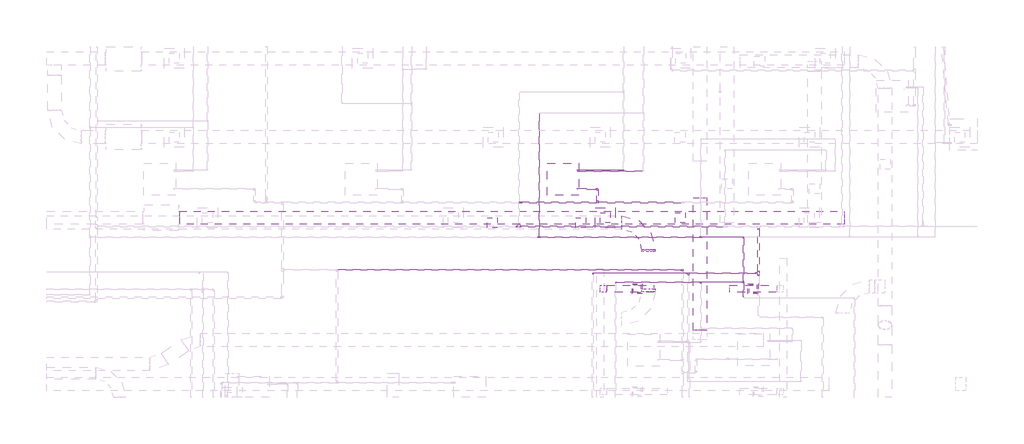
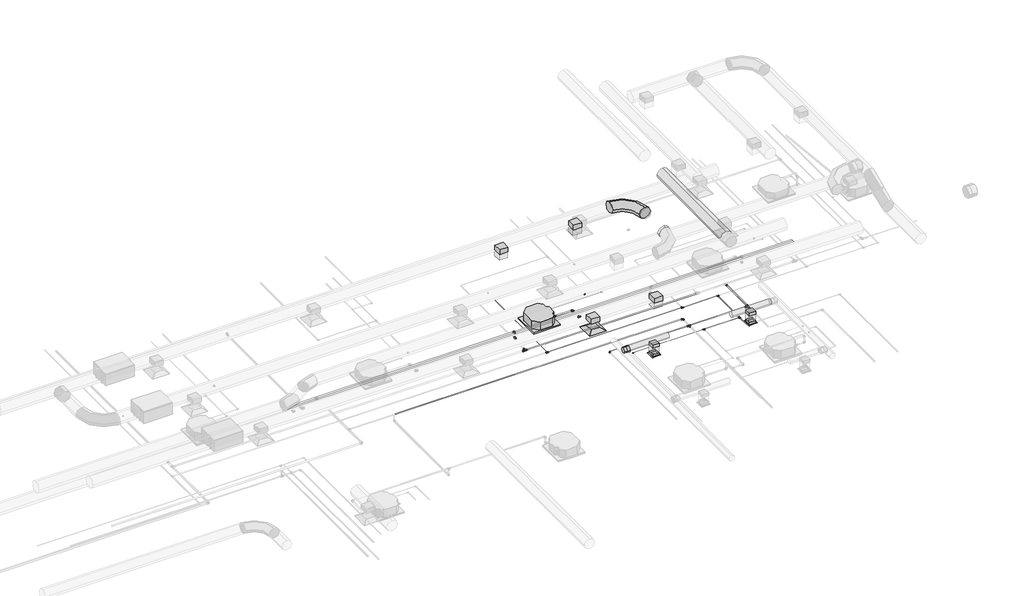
# One storey, part 18 of 21: 32 pipe fittings, 20 pipe segments, 12 duct segments, 8 duct fittings, 3 air terminals, 1 proxy.
"""IFC4 building model written with IfcOpenShell, lengths in millimetres."""

from ifc_helpers import new_model, si_unit, point, frame, frame_2d, origin, place, context, project, spatial, polyline, circle_curve, trimmed, segment, composite_curve, outline, extrude, transform, mapped, element, save
from components import air_terminal_ff221211, sdq3535_a75e83f7, mechanical_equipment_53173f38, duct_fitting_1aed30ea, duct_fitting_95c1ddea, duct_fitting_4c01d837, duct_fitting_2_d_33ab650d, pipe_fitting_535881cf, pipe_fitting_144f4440, pipe_fitting_a74a8f85, pipe_fitting_660e7500, pipe_fitting_39558790, pipe_fitting_5aefb692, pipe_fitting_7275ed05, pipe_fitting_bec7a568, pipe_fitting_8959f397, pipe_fitting_b289f7a4, pipe_fitting_d513b082, pipe_fitting_ee637023, pipe_fitting_3bcfee68, pipe_fitting_81a84823, pipe_fitting_4dadca9a, pipe_fitting_c427e41c, pipe_fitting_c5895cb6, pipe_fitting_c900cfc2, pipe_fitting_16c020f5, pipe_fitting_b10472de, pipe_fitting_afe73776, pipe_fitting_09966660, pipe_fitting_59d1f3e3, pipe_fitting_648138cd, pipe_fitting_cbda5a7c

model = new_model("IFC4")

# Units and contexts
model_context = context("Model", 3, world=origin())
ifc_project = project(units=[si_unit("LENGTHUNIT", "METRE", prefix="MILLI")], contexts=[model_context])

# Site, building, storey
site = spatial("IfcSite", under=ifc_project)
building = spatial("IfcBuilding", under=site)
storey = spatial("IfcBuildingStorey", under=building, Name="Nível 1", Elevation=0.0)

# Air terminals
placement = place(None, origin())
air_terminal_shape = air_terminal_ff221211(model_context)
element("IfcAirTerminal", 1, ObjectType="M_Difusor de retorno : 600 x 600 Face 300 x 300 Conexão", at=placement, inside=storey, context=model_context, shape_type="MappedRepresentation", body=[
    mapped(air_terminal_shape, transform((19391.8789049, 2283.4261027, 3000.0), x_axis=(0.0, -1.0, 0.0), y_axis=(1.0, 0.0, 0.0), z_axis=(0.0, 0.0, 1.0))),
])
sdq3535_shape = sdq3535_a75e83f7(model_context)
element("IfcAirTerminal", 2, ObjectType="11 - Difusor Quadrado : SDQ3535", at=placement, inside=storey, context=model_context, shape_type="MappedRepresentation", body=[
    mapped(sdq3535_shape, transform((23788.0534633, 172.1125512, 3000.0), x_axis=(0.0, 1.0, 0.0), y_axis=(-1.0, 0.0, 0.0), z_axis=(0.0, 0.0, 1.0))),
])
element("IfcAirTerminal", 3, ObjectType="11 - Difusor Quadrado : SDQ3535", at=placement, inside=storey, context=model_context, shape_type="MappedRepresentation", body=[
    mapped(sdq3535_shape, transform((20342.4289049, 172.1125512, 3000.0), x_axis=(0.0, -1.0, 0.0), y_axis=(1.0, 0.0, 0.0), z_axis=(0.0, 0.0, 1.0))),
])

# Proxy
mechanical_equipment_shape = mechanical_equipment_53173f38(model_context)
element("IfcBuildingElementProxy", 4, Name="Midea_VRF_Indoor_4-way Cassette_MI-90(100,112,140)Q4_DHN1-D (2nd DC) : MI2-112Q4DHN1", ObjectType="Midea_VRF_Indoor_4-way Cassette_MI-90(100,112,140)Q4_DHN1-D (2nd DC) : MI2-112Q4DHN1", at=placement, inside=storey, context=model_context, shape_type="MappedRepresentation", body=[
    mapped(mechanical_equipment_shape, transform((18136.4781645, 3426.4200133, 2999.9565561), x_axis=(1.0, 0.0, 0.0), y_axis=(0.0, 1.0, 0.0), z_axis=(0.0, 0.0, 1.0))),
])

# Duct fittings
duct_fitting_shape = duct_fitting_1aed30ea(model_context)
element("IfcDuctFitting", 5, ObjectType="M_Encaixe de duto redondo : Padrão", at=placement, inside=storey, context=model_context, shape_type="MappedRepresentation", body=[
    mapped(duct_fitting_shape, transform((19341.3789049, 172.1125512, 3521.0), x_axis=(1.0, 0.0, 0.0), y_axis=(0.0, -1.0, 0.0), z_axis=(0.0, 0.0, -1.0))),
])
duct_fitting_2_shape = duct_fitting_95c1ddea(model_context)
element("IfcDuctFitting", 6, ObjectType="M_Encaixe de duto retangular : Padrão", at=placement, inside=storey, context=model_context, shape_type="MappedRepresentation", body=[
    mapped(duct_fitting_2_shape, transform((19391.8789049, 2283.4261027, 3421.0), x_axis=(0.0, 0.0, -1.0), y_axis=(-1.0, 0.0, 0.0), z_axis=(0.0, 1.0, 0.0))),
])
element("IfcDuctFitting", 7, ObjectType="M_Encaixe de duto retangular : Padrão", at=placement, inside=storey, context=model_context, shape_type="MappedRepresentation", body=[
    mapped(duct_fitting_2_shape, transform((21627.3559712, 2283.4261027, 3421.0), x_axis=(0.0, 0.0, -1.0), y_axis=(-1.0, 0.0, 0.0), z_axis=(0.0, 1.0, 0.0))),
])
element("IfcDuctFitting", 8, ObjectType="M_Encaixe de duto retangular : Padrão", at=placement, inside=storey, context=model_context, shape_type="MappedRepresentation", body=[
    mapped(duct_fitting_2_shape, transform((16036.8087604, 2137.3539749, 7301.0), x_axis=(0.0, 0.0, -1.0), y_axis=(1.0, 0.0, 0.0), z_axis=(0.0, -1.0, 0.0))),
])
element("IfcDuctFitting", 9, ObjectType="M_Encaixe de duto retangular : Padrão", at=placement, inside=storey, context=model_context, shape_type="MappedRepresentation", body=[
    mapped(duct_fitting_2_shape, transform((18669.5136677, 2137.3539749, 7301.0), x_axis=(0.0, 0.0, -1.0), y_axis=(1.0, 0.0, 0.0), z_axis=(0.0, -1.0, 0.0))),
])
duct_fitting_3_shape = duct_fitting_4c01d837(model_context)
element("IfcDuctFitting", 10, ObjectType="M_Encaixe de duto retangular : Padrão", at=placement, inside=storey, context=model_context, shape_type="MappedRepresentation", body=[
    mapped(duct_fitting_3_shape, transform((23788.0534633, 172.1125512, 3421.5), x_axis=(0.0, 0.0, -1.0), y_axis=(1.0, 0.0, 0.0), z_axis=(0.0, -1.0, 0.0))),
])
element("IfcDuctFitting", 11, ObjectType="M_Encaixe de duto retangular : Padrão", at=placement, inside=storey, context=model_context, shape_type="MappedRepresentation", body=[
    mapped(duct_fitting_3_shape, transform((20342.4289049, 172.1125512, 3421.5), x_axis=(0.0, 0.0, -1.0), y_axis=(-1.0, 0.0, 0.0), z_axis=(0.0, 1.0, 0.0))),
])
duct_fitting_2_d_shape = duct_fitting_2_d_33ab650d(model_context)
element("IfcDuctFitting", 12, ObjectType="M_Cotovelo redondo : 2 D", at=placement, inside=storey, context=model_context, shape_type="MappedRepresentation", body=[
    mapped(duct_fitting_2_d_shape, transform((20682.6496305, 2137.3539749, 7501.0), x_axis=(0.0, 1.0, 0.0), y_axis=(-1.0, 0.0, 0.0), z_axis=(0.0, 0.0, 1.0))),
])

# Duct segments
element("IfcDuctSegment", 13, ObjectType="Torneiras / Raio curto", at=placement, inside=storey, context=model_context, shape_type="SweptSolid", body=[
    extrude(outline(composite_curve([segment(trimmed(circle_curve(frame_2d((2283.4261027, 3621.0)), 200.0), [point((2083.4261027, 3621.0))], [point((2283.4261027, 3821.0))], False, "CARTESIAN"), True, "CONTINUOUS"), segment(trimmed(circle_curve(frame_2d((2283.4261027, 3621.0)), 200.0), [point((2283.4261027, 3821.0))], [point((2483.4261027, 3621.0))], False, "CARTESIAN"), True, "CONTINUOUS"), segment(trimmed(circle_curve(frame_2d((2283.4261027, 3621.0)), 200.0), [point((2483.4261027, 3621.0))], [point((2283.4261027, 3421.0))], False, "CARTESIAN"), True, "CONTINUOUS"), segment(trimmed(circle_curve(frame_2d((2283.4261027, 3621.0)), 200.0), [point((2283.4261027, 3421.0))], [point((2083.4261027, 3621.0))], False, "CARTESIAN"), True, "CONTINUOUS")], self_intersect=False)), frame((6730.0801877, 0.0, 0.0), z_axis=(1.0, 0.0, 0.0), x_axis=(0.0, 1.0, 0.0)), (0.0, 0.0, 1.0), 19777.3097368),
])
element("IfcDuctSegment", 14, ObjectType="Raios cotovelos / torneiras", at=placement, inside=storey, context=model_context, shape_type="SweptSolid", body=[
    extrude(outline(polyline([(19541.8789049, 2133.4261027), (19241.8789049, 2133.4261027), (19241.8789049, 2433.4261027), (19541.8789049, 2433.4261027), (19541.8789049, 2133.4261027)])), frame((0.0, 0.0, 3101.6), z_axis=(0.0, 0.0, 1.0), x_axis=(1.0, 0.0, 0.0)), (0.0, 0.0, 1.0), 217.8),
])
element("IfcDuctSegment", 15, ObjectType="Raios cotovelos / torneiras", at=placement, inside=storey, context=model_context, shape_type="SweptSolid", body=[
    extrude(outline(polyline([(21777.3559712, 2133.4261027), (21477.3559712, 2133.4261027), (21477.3559712, 2433.4261027), (21777.3559712, 2433.4261027), (21777.3559712, 2133.4261027)])), frame((0.0, 0.0, 3101.6), z_axis=(0.0, 0.0, 1.0), x_axis=(1.0, 0.0, 0.0)), (0.0, 0.0, 1.0), 217.8),
])
element("IfcDuctSegment", 16, ObjectType="Torneiras / Raio curto", at=placement, inside=storey, context=model_context, shape_type="SweptSolid", body=[
    extrude(outline(composite_curve([segment(trimmed(circle_curve(frame_2d((172.1125512, 3521.0)), 99.5), [point((72.6125512, 3521.0))], [point((172.1125512, 3620.5))], False, "CARTESIAN"), True, "CONTINUOUS"), segment(trimmed(circle_curve(frame_2d((172.1125512, 3521.0)), 99.5), [point((172.1125512, 3620.5))], [point((271.6125512, 3521.0))], False, "CARTESIAN"), True, "CONTINUOUS"), segment(trimmed(circle_curve(frame_2d((172.1125512, 3521.0)), 99.5), [point((271.6125512, 3521.0))], [point((172.1125512, 3421.5))], False, "CARTESIAN"), True, "CONTINUOUS"), segment(trimmed(circle_curve(frame_2d((172.1125512, 3521.0)), 99.5), [point((172.1125512, 3421.5))], [point((72.6125512, 3521.0))], False, "CARTESIAN"), True, "CONTINUOUS")], self_intersect=False)), frame((19442.9789049, 0.0, 0.0), z_axis=(1.0, 0.0, 0.0), x_axis=(0.0, 1.0, 0.0)), (0.0, 0.0, 1.0), 1398.4),
])
element("IfcDuctSegment", 17, ObjectType="Torneiras / Raio curto", at=placement, inside=storey, context=model_context, shape_type="SweptSolid", body=[
    extrude(outline(composite_curve([segment(trimmed(circle_curve(frame_2d((172.1125512, 3521.0)), 99.5), [point((271.6125512, 3521.0))], [point((172.1125512, 3421.5))], False, "CARTESIAN"), True, "CONTINUOUS"), segment(trimmed(circle_curve(frame_2d((172.1125512, 3521.0)), 99.5), [point((172.1125512, 3421.5))], [point((72.6125512, 3521.0))], False, "CARTESIAN"), True, "CONTINUOUS"), segment(trimmed(circle_curve(frame_2d((172.1125512, 3521.0)), 99.5), [point((72.6125512, 3521.0))], [point((172.1125512, 3620.5))], False, "CARTESIAN"), True, "CONTINUOUS"), segment(trimmed(circle_curve(frame_2d((172.1125512, 3521.0)), 99.5), [point((172.1125512, 3620.5))], [point((271.6125512, 3521.0))], False, "CARTESIAN"), True, "CONTINUOUS")], self_intersect=False)), frame((23088.6034633, 0.0, 0.0), z_axis=(1.0, 0.0, 0.0), x_axis=(0.0, 1.0, 0.0)), (0.0, 0.0, 1.0), 1398.9),
])
element("IfcDuctSegment", 18, ObjectType="Raios cotovelos / torneiras", at=placement, inside=storey, context=model_context, shape_type="SweptSolid", body=[
    extrude(outline(polyline([(23675.5534633, 284.6125512), (23900.5534633, 284.6125512), (23900.5534633, 59.6125512), (23675.5534633, 59.6125512), (23675.5534633, 284.6125512)])), frame((0.0, 0.0, 3005.0), z_axis=(0.0, 0.0, 1.0), x_axis=(1.0, 0.0, 0.0)), (0.0, 0.0, 1.0), 314.9),
])
element("IfcDuctSegment", 19, ObjectType="Raios cotovelos / torneiras", at=placement, inside=storey, context=model_context, shape_type="SweptSolid", body=[
    extrude(outline(polyline([(20454.9289049, 59.6125512), (20229.9289049, 59.6125512), (20229.9289049, 284.6125512), (20454.9289049, 284.6125512), (20454.9289049, 59.6125512)])), frame((0.0, 0.0, 3005.0), z_axis=(0.0, 0.0, 1.0), x_axis=(1.0, 0.0, 0.0)), (0.0, 0.0, 1.0), 314.9),
])
element("IfcDuctSegment", 20, ObjectType="Torneiras / Raio curto", at=placement, inside=storey, context=model_context, shape_type="SweptSolid", body=[
    extrude(outline(composite_curve([segment(trimmed(circle_curve(frame_2d((7501.0, 22212.1483041)), 200.0), [point((7501.0, 22012.1483041))], [point((7301.0, 22212.1483041))], False, "CARTESIAN"), True, "CONTINUOUS"), segment(trimmed(circle_curve(frame_2d((7501.0, 22212.1483041)), 200.0), [point((7301.0, 22212.1483041))], [point((7501.0, 22412.1483041))], False, "CARTESIAN"), True, "CONTINUOUS"), segment(trimmed(circle_curve(frame_2d((7501.0, 22212.1483041)), 200.0), [point((7501.0, 22412.1483041))], [point((7701.0, 22212.1483041))], False, "CARTESIAN"), True, "CONTINUOUS"), segment(trimmed(circle_curve(frame_2d((7501.0, 22212.1483041)), 200.0), [point((7701.0, 22212.1483041))], [point((7501.0, 22012.1483041))], False, "CARTESIAN"), True, "CONTINUOUS")], self_intersect=False)), frame((0.0, -1057.7889752, 0.0), z_axis=(0.0, 1.0, 0.0), x_axis=(0.0, 0.0, 1.0)), (0.0, 0.0, 1.0), 3933.62584),
])
element("IfcDuctSegment", 21, ObjectType="Torneiras / Raio curto", at=placement, inside=storey, context=model_context, shape_type="SweptSolid", body=[
    extrude(outline(composite_curve([segment(trimmed(circle_curve(frame_2d((7501.0, 20682.6496305)), 200.0), [point((7501.0, 20482.6496305))], [point((7301.0, 20682.6496305))], False, "CARTESIAN"), True, "CONTINUOUS"), segment(trimmed(circle_curve(frame_2d((7501.0, 20682.6496305)), 200.0), [point((7301.0, 20682.6496305))], [point((7501.0, 20882.6496305))], False, "CARTESIAN"), True, "CONTINUOUS"), segment(trimmed(circle_curve(frame_2d((7501.0, 20682.6496305)), 200.0), [point((7501.0, 20882.6496305))], [point((7701.0, 20682.6496305))], False, "CARTESIAN"), True, "CONTINUOUS"), segment(trimmed(circle_curve(frame_2d((7501.0, 20682.6496305)), 200.0), [point((7701.0, 20682.6496305))], [point((7501.0, 20482.6496305))], False, "CARTESIAN"), True, "CONTINUOUS")], self_intersect=False)), frame((0.0, 75.8368648, 0.0), z_axis=(0.0, 1.0, 0.0), x_axis=(0.0, 0.0, 1.0)), (0.0, 0.0, 1.0), 100.0),
])
element("IfcDuctSegment", 22, ObjectType="Torneiras / Raio curto", at=placement, inside=storey, context=model_context, shape_type="SweptSolid", body=[
    extrude(outline(composite_curve([segment(trimmed(circle_curve(frame_2d((7501.0, 20682.6496305)), 200.0), [point((7501.0, 20882.6496305))], [point((7701.0, 20682.6496305))], False, "CARTESIAN"), True, "CONTINUOUS"), segment(trimmed(circle_curve(frame_2d((7501.0, 20682.6496305)), 200.0), [point((7701.0, 20682.6496305))], [point((7501.0, 20482.6496305))], False, "CARTESIAN"), True, "CONTINUOUS"), segment(trimmed(circle_curve(frame_2d((7501.0, 20682.6496305)), 200.0), [point((7501.0, 20482.6496305))], [point((7301.0, 20682.6496305))], False, "CARTESIAN"), True, "CONTINUOUS"), segment(trimmed(circle_curve(frame_2d((7501.0, 20682.6496305)), 200.0), [point((7301.0, 20682.6496305))], [point((7501.0, 20882.6496305))], False, "CARTESIAN"), True, "CONTINUOUS")], self_intersect=False)), frame((0.0, 1269.8368648, 0.0), z_axis=(0.0, 1.0, 0.0), x_axis=(0.0, 0.0, 1.0)), (0.0, 0.0, 1.0), 67.5171101),
])
element("IfcDuctSegment", 23, ObjectType="Raios cotovelos / torneiras", at=placement, inside=storey, context=model_context, shape_type="SweptSolid", body=[
    extrude(outline(polyline([(16186.8087604, 1987.3539749), (15886.8087604, 1987.3539749), (15886.8087604, 2287.3539749), (16186.8087604, 2287.3539749), (16186.8087604, 1987.3539749)])), frame((0.0, 0.0, 6981.6), z_axis=(0.0, 0.0, 1.0), x_axis=(1.0, 0.0, 0.0)), (0.0, 0.0, 1.0), 217.8),
])
element("IfcDuctSegment", 24, ObjectType="Raios cotovelos / torneiras", at=placement, inside=storey, context=model_context, shape_type="SweptSolid", body=[
    extrude(outline(polyline([(18819.5136677, 1987.3539749), (18519.5136677, 1987.3539749), (18519.5136677, 2287.3539749), (18819.5136677, 2287.3539749), (18819.5136677, 1987.3539749)])), frame((0.0, 0.0, 6981.6), z_axis=(0.0, 0.0, 1.0), x_axis=(1.0, 0.0, 0.0)), (0.0, 0.0, 1.0), 217.8),
])

# Pipe fittings
pipe_fitting_shape = pipe_fitting_535881cf(model_context)
element("IfcPipeFitting", 25, ObjectType="Cotovelo - Soldado - CU : Padrão", at=placement, inside=storey, context=model_context, shape_type="MappedRepresentation", body=[
    mapped(pipe_fitting_shape, transform((21695.3015024, 732.1759778, 3500.0), x_axis=(0.0, 1.0, 0.0), y_axis=(-1.0, 0.0, 0.0), z_axis=(0.0, 0.0, 1.0))),
])
pipe_fitting_2_shape = pipe_fitting_144f4440(model_context)
element("IfcPipeFitting", 26, ObjectType="Cotovelo - PVC - CW : Padrão", at=placement, inside=storey, context=model_context, shape_type="MappedRepresentation", body=[
    mapped(pipe_fitting_2_shape, transform((19161.4781635, 3141.4200133, 3252.3), x_axis=(0.0, 1.0, 0.0), y_axis=(-0.999999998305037, 0.0, -5.822306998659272e-05), z_axis=(-5.822306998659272e-05, 0.0, 0.999999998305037))),
])
element("IfcPipeFitting", 27, ObjectType="Cotovelo - PVC - CW : Padrão", at=placement, inside=storey, context=model_context, shape_type="MappedRepresentation", body=[
    mapped(pipe_fitting_2_shape, transform((16862.4745645, 2741.4325471, 3252.3), x_axis=(-0.9999999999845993, 5.54991084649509e-06, 0.0), y_axis=(0.0, 0.0, 1.0000000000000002), z_axis=(5.54991084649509e-06, 0.9999999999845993, 0.0))),
])
element("IfcPipeFitting", 28, ObjectType="Cotovelo - PVC - CW : Padrão", at=placement, inside=storey, context=model_context, shape_type="MappedRepresentation", body=[
    mapped(pipe_fitting_2_shape, transform((16862.4745645, 2741.4325471, 3500.0), x_axis=(0.0, 0.0, 1.0), y_axis=(-1.0, 0.0, 0.0), z_axis=(0.0, -1.0, 0.0))),
])
pipe_fitting_3_shape = pipe_fitting_a74a8f85(model_context)
element("IfcPipeFitting", 29, ObjectType="Tê - Soldado - CU : Padrão", at=placement, inside=storey, context=model_context, shape_type="MappedRepresentation", body=[
    mapped(pipe_fitting_3_shape, transform((19161.4781635, 2741.4200133, 3252.3), x_axis=(-1.0, 0.0, 0.0), y_axis=(0.0, -1.0, 0.0), z_axis=(0.0, 0.0, 1.0))),
])
pipe_fitting_4_shape = pipe_fitting_660e7500(model_context)
element("IfcPipeFitting", 30, ObjectType="Tê - Soldado - CU : Padrão", at=placement, inside=storey, context=model_context, shape_type="MappedRepresentation", body=[
    mapped(pipe_fitting_4_shape, transform((17431.2298012, 1706.2287572, 3146.8), x_axis=(-1.0, 0.0, 0.0), y_axis=(0.0, -1.0, 0.0), z_axis=(0.0, 0.0, 1.0))),
])
element("IfcPipeFitting", 31, ObjectType="Tê - Soldado - CU : Padrão", at=placement, inside=storey, context=model_context, shape_type="MappedRepresentation", body=[
    mapped(pipe_fitting_4_shape, transform((22231.1525645, 1706.2287572, 3146.8), x_axis=(-1.0, 0.0, 0.0), y_axis=(0.0, -1.0, 0.0), z_axis=(0.0, 0.0, 1.0))),
])
pipe_fitting_5_shape = pipe_fitting_39558790(model_context)
element("IfcPipeFitting", 32, ObjectType="Bucha de redução reta - Soldada - CU : Padrão", at=placement, inside=storey, context=model_context, shape_type="MappedRepresentation", body=[
    mapped(pipe_fitting_5_shape, transform((21857.3516384, 582.0186107, 3249.6974708), x_axis=(0.0, -0.9999964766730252, -0.002654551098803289), y_axis=(0.9999954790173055, 7.98218922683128e-06, -0.0030069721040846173), z_axis=(0.0030069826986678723, -0.002654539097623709, 0.9999919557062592))),
])
element("IfcPipeFitting", 33, ObjectType="Bucha de redução reta - Soldada - CU : Padrão", at=placement, inside=storey, context=model_context, shape_type="MappedRepresentation", body=[
    mapped(pipe_fitting_5_shape, transform((21817.7318175, 636.3684192, 3249.9608827), x_axis=(-0.9999954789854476, 0.0, 0.0030069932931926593), y_axis=(-7.982181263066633e-06, -0.9999964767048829, -0.0026545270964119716), z_axis=(0.0030069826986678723, -0.002654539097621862, 0.9999919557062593))),
])
pipe_fitting_6_shape = pipe_fitting_5aefb692(model_context)
element("IfcPipeFitting", 34, ObjectType="Cotovelo - Soldado - CU : Padrão", at=placement, inside=storey, context=model_context, shape_type="MappedRepresentation", body=[
    mapped(pipe_fitting_6_shape, transform((19017.7444764, 636.3684192, 3258.3804639), x_axis=(-0.9999954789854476, 0.0, 0.0030069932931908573), y_axis=(0.0, -1.0, 0.0), z_axis=(0.0030069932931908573, 0.0, 0.9999954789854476))),
])
pipe_fitting_7_shape = pipe_fitting_7275ed05(model_context)
element("IfcPipeFitting", 35, ObjectType="Bucha de redução reta - Soldada - CU : Padrão", at=placement, inside=storey, context=model_context, shape_type="MappedRepresentation", body=[
    mapped(pipe_fitting_7_shape, transform((16824.5645645, 2107.4386241, 3244.7889768), x_axis=(0.0, 0.9999977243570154, 0.0021333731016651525), y_axis=(-0.9999998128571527, -1.3051739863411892e-06, 0.000611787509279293), z_axis=(0.0006117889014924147, -0.0021333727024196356, 0.9999975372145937))),
])
pipe_fitting_8_shape = pipe_fitting_bec7a568(model_context)
element("IfcPipeFitting", 36, ObjectType="Tê - Soldado - CU : Padrão", at=placement, inside=storey, context=model_context, shape_type="MappedRepresentation", body=[
    mapped(pipe_fitting_8_shape, transform((16824.5645645, 2025.308811, 3244.6137629), x_axis=(-0.9999998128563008, 0.0, 0.0006117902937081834), y_axis=(-1.3051767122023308e-06, -0.9999977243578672, -0.002133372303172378), z_axis=(0.0006117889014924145, -0.0021333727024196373, 0.9999975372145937))),
])
pipe_fitting_9_shape = pipe_fitting_8959f397(model_context)
element("IfcPipeFitting", 37, ObjectType="Bucha de redução reta - Soldada - CU : Padrão", at=placement, inside=storey, context=model_context, shape_type="MappedRepresentation", body=[
    mapped(pipe_fitting_9_shape, transform((17431.2298012, 1738.9569572, 3146.8), x_axis=(0.0, 1.0, 0.0), y_axis=(-1.0, 0.0, 0.0), z_axis=(0.0, 0.0, 1.0))),
])
element("IfcPipeFitting", 38, ObjectType="Bucha de redução reta - Soldada - CU : Padrão", at=placement, inside=storey, context=model_context, shape_type="MappedRepresentation", body=[
    mapped(pipe_fitting_9_shape, transform((22231.1525645, 1738.9569572, 3146.8), x_axis=(0.0, 1.0, 0.0), y_axis=(-1.0, 0.0, 0.0), z_axis=(0.0, 0.0, 1.0))),
])
pipe_fitting_10_shape = pipe_fitting_b289f7a4(model_context)
element("IfcPipeFitting", 39, ObjectType="Bucha de redução reta - Soldada - CU : Padrão", at=placement, inside=storey, context=model_context, shape_type="MappedRepresentation", body=[
    mapped(pipe_fitting_10_shape, transform((22263.8996645, 1706.2287572, 3146.8), x_axis=(1.0, 0.0, 0.0), y_axis=(0.0, 1.0, 0.0), z_axis=(0.0, 0.0, 1.0))),
])
pipe_fitting_11_shape = pipe_fitting_d513b082(model_context)
element("IfcPipeFitting", 40, ObjectType="Bucha de redução reta - Soldada - CU : Padrão", at=placement, inside=storey, context=model_context, shape_type="MappedRepresentation", body=[
    mapped(pipe_fitting_11_shape, transform((23956.1500382, 1972.308811, 3240.2507273), x_axis=(0.0, -1.0, 0.0), y_axis=(0.9999998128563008, 0.0, -0.0006117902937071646), z_axis=(0.0006117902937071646, 0.0, 0.9999998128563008))),
])
pipe_fitting_12_shape = pipe_fitting_ee637023(model_context)
element("IfcPipeFitting", 41, ObjectType="Bucha de redução reta - Soldada - CU : Padrão", at=placement, inside=storey, context=model_context, shape_type="MappedRepresentation", body=[
    mapped(pipe_fitting_12_shape, transform((23877.8504054, 636.3684192, 3243.7650172), x_axis=(-0.9999953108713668, 0.0, 0.0030623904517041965), y_axis=(7.666812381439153e-06, -0.9999968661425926, 0.0025035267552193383), z_axis=(0.0030623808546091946, 0.0025035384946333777, 0.9999921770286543))),
])
pipe_fitting_13_shape = pipe_fitting_3bcfee68(model_context)
element("IfcPipeFitting", 42, ObjectType="Tê - Soldado - CU : Padrão", at=placement, inside=storey, context=model_context, shape_type="MappedRepresentation", body=[
    mapped(pipe_fitting_13_shape, transform((23956.1500382, 636.3684192, 3243.525232), x_axis=(0.0, -0.9999968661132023, 0.0025035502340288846), y_axis=(0.999995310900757, -7.666824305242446e-06, -0.0030623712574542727), z_axis=(0.0030623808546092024, 0.0025035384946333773, 0.9999921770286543))),
])
pipe_fitting_14_shape = pipe_fitting_81a84823(model_context)
element("IfcPipeFitting", 43, ObjectType="Tê - Soldado - CU : Padrão", at=placement, inside=storey, context=model_context, shape_type="MappedRepresentation", body=[
    mapped(pipe_fitting_14_shape, transform((21857.3516384, 636.3684192, 3249.8417456), x_axis=(-0.9999954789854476, 0.0, 0.0030069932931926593), y_axis=(7.98218126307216e-06, 0.9999964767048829, 0.002654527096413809), z_axis=(-0.0030069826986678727, 0.0026545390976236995, -0.9999919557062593))),
])
pipe_fitting_15_shape = pipe_fitting_4dadca9a(model_context)
element("IfcPipeFitting", 44, ObjectType="Bucha de redução reta - Soldada - CU : Padrão", at=placement, inside=storey, context=model_context, shape_type="MappedRepresentation", body=[
    mapped(pipe_fitting_15_shape, transform((23956.1500382, 579.7685966, 3243.666933), x_axis=(0.0, -0.9999968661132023, 0.0025035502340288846), y_axis=(0.9999953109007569, -7.666824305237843e-06, -0.0030623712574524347), z_axis=(0.0030623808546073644, 0.002503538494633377, 0.9999921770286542))),
])
pipe_fitting_16_shape = pipe_fitting_c427e41c(model_context)
element("IfcPipeFitting", 45, ObjectType="Bucha de redução reta - Soldada - CU : Padrão", at=placement, inside=storey, context=model_context, shape_type="MappedRepresentation", body=[
    mapped(pipe_fitting_16_shape, transform((16765.6220755, 2025.308811, 3244.6498233), x_axis=(-0.9999998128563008, 0.0, 0.0006117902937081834), y_axis=(-1.3051767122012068e-06, -0.9999977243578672, -0.0021333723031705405), z_axis=(0.0006117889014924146, -0.0021333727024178, 0.9999975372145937))),
])
pipe_fitting_17_shape = pipe_fitting_c5895cb6(model_context)
element("IfcPipeFitting", 46, ObjectType="Bucha de redução reta - Soldada - CU : Padrão", at=placement, inside=storey, context=model_context, shape_type="MappedRepresentation", body=[
    mapped(pipe_fitting_17_shape, transform((17398.4827012, 1706.2287572, 3146.8), x_axis=(-1.0, 0.0, 0.0), y_axis=(0.0, -1.0, 0.0), z_axis=(0.0, 0.0, 1.0))),
])
pipe_fitting_18_shape = pipe_fitting_c900cfc2(model_context)
element("IfcPipeFitting", 47, ObjectType="Bucha de redução reta - Soldada - CU : Padrão", at=placement, inside=storey, context=model_context, shape_type="MappedRepresentation", body=[
    mapped(pipe_fitting_18_shape, transform((18561.4781645, 3699.630827, 3252.3085101), x_axis=(1.0, 0.0, 0.0), y_axis=(0.0, 1.0, 0.0), z_axis=(0.0, 0.0, 1.0))),
])
pipe_fitting_19_shape = pipe_fitting_16c020f5(model_context)
element("IfcPipeFitting", 48, ObjectType="Cotovelo - Soldado - CU : Padrão", at=placement, inside=storey, context=model_context, shape_type="MappedRepresentation", body=[
    mapped(pipe_fitting_19_shape, transform((19932.4995645, 3699.630827, 3252.3085101), x_axis=(1.0, 0.0, 0.0), y_axis=(0.0, 1.0, 0.0), z_axis=(0.0, 0.0, 1.0))),
])
pipe_fitting_20_shape = pipe_fitting_b10472de(model_context)
element("IfcPipeFitting", 49, ObjectType="Tê - Soldado - CU : Padrão", at=placement, inside=storey, context=model_context, shape_type="MappedRepresentation", body=[
    mapped(pipe_fitting_20_shape, transform((22237.7224905, 365.371019, 3146.8), x_axis=(1.0, 0.0, 0.0), y_axis=(0.0, 0.9999999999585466, 9.105329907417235e-06), z_axis=(0.0, -9.105329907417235e-06, 0.9999999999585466))),
])
pipe_fitting_21_shape = pipe_fitting_afe73776(model_context)
element("IfcPipeFitting", 50, ObjectType="Bucha de redução reta - Soldada - CU : Padrão", at=placement, inside=storey, context=model_context, shape_type="MappedRepresentation", body=[
    mapped(pipe_fitting_21_shape, transform((23477.0420647, 365.371019, 3146.8), x_axis=(-1.0, 0.0, 0.0), y_axis=(0.0, -1.0, 0.0), z_axis=(0.0, 0.0, 1.0))),
])
pipe_fitting_22_shape = pipe_fitting_09966660(model_context)
element("IfcPipeFitting", 51, ObjectType="Tê - Soldado - CU : Padrão", at=placement, inside=storey, context=model_context, shape_type="MappedRepresentation", body=[
    mapped(pipe_fitting_22_shape, transform((23507.2025647, 1706.2287572, 3146.8), x_axis=(-1.0, 0.0, 0.0), y_axis=(0.0, 1.0, 0.0), z_axis=(0.0, 0.0, -1.0))),
])
element("IfcPipeFitting", 52, ObjectType="Tê - Soldado - CU : Padrão", at=placement, inside=storey, context=model_context, shape_type="MappedRepresentation", body=[
    mapped(pipe_fitting_22_shape, transform((23507.2025647, 365.371019, 3146.8), x_axis=(0.0, 1.0, 0.0), y_axis=(1.0, 0.0, 0.0), z_axis=(0.0, 0.0, -1.0))),
])
pipe_fitting_23_shape = pipe_fitting_59d1f3e3(model_context)
element("IfcPipeFitting", 53, ObjectType="Bucha de redução reta - Soldada - CU : Padrão", at=placement, inside=storey, context=model_context, shape_type="MappedRepresentation", body=[
    mapped(pipe_fitting_23_shape, transform((18561.4781645, 3665.8283851, 3146.8012049), x_axis=(1.0, 0.0, 0.0), y_axis=(0.0, 1.0, 0.0), z_axis=(0.0, 0.0, 1.0))),
])
pipe_fitting_24_shape = pipe_fitting_648138cd(model_context)
element("IfcPipeFitting", 54, ObjectType="Cotovelo - Soldado - CU : Padrão", at=placement, inside=storey, context=model_context, shape_type="MappedRepresentation", body=[
    mapped(pipe_fitting_24_shape, transform((19700.4127405, 365.371019, 3146.8), x_axis=(-1.0, 0.0, 0.0), y_axis=(0.0, -1.0, 0.0), z_axis=(0.0, 0.0, 1.0))),
])
pipe_fitting_25_shape = pipe_fitting_cbda5a7c(model_context)
element("IfcPipeFitting", 55, ObjectType="Bucha de redução reta - Soldada - CU : Padrão", at=placement, inside=storey, context=model_context, shape_type="MappedRepresentation", body=[
    mapped(pipe_fitting_25_shape, transform((22237.7224905, 337.786319, 3146.7997488), x_axis=(0.0, -0.9999999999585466, -9.105329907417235e-06), y_axis=(1.0000000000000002, 0.0, 0.0), z_axis=(0.0, -9.105329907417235e-06, 0.9999999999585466))),
])
element("IfcPipeFitting", 56, ObjectType="Bucha de redução reta - Soldada - CU : Padrão", at=placement, inside=storey, context=model_context, shape_type="MappedRepresentation", body=[
    mapped(pipe_fitting_25_shape, transform((22210.0871405, 365.371019, 3146.8), x_axis=(-1.0, 0.0, 0.0), y_axis=(0.0, -0.9999999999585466, -9.105329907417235e-06), z_axis=(0.0, -9.105329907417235e-06, 0.9999999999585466))),
])

# Pipe segments
element("IfcPipeSegment", 57, ObjectType="Tubos de cobre HVAC", at=placement, inside=storey, context=model_context, shape_type="SweptSolid", body=[
    extrude(outline(composite_curve([segment(trimmed(circle_curve(frame_2d((3699.630827, 3252.3085101)), 7.935), [point((3691.695827, 3252.3085101))], [point((3699.630827, 3260.2435101))], False, "CARTESIAN"), True, "CONTINUOUS"), segment(trimmed(circle_curve(frame_2d((3699.630827, 3252.3085101)), 7.935), [point((3699.630827, 3260.2435101))], [point((3707.565827, 3252.3085101))], False, "CARTESIAN"), True, "CONTINUOUS"), segment(trimmed(circle_curve(frame_2d((3699.630827, 3252.3085101)), 7.935), [point((3707.565827, 3252.3085101))], [point((3699.630827, 3244.3735101))], False, "CARTESIAN"), True, "CONTINUOUS"), segment(trimmed(circle_curve(frame_2d((3699.630827, 3252.3085101)), 7.935), [point((3699.630827, 3244.3735101))], [point((3691.695827, 3252.3085101))], False, "CARTESIAN"), True, "CONTINUOUS")], self_intersect=False)), frame((18574.1370645, 0.0, 0.0), z_axis=(1.0, 0.0, 0.0), x_axis=(0.0, 1.0, 0.0)), (0.0, 0.0, 1.0), 1329.3839),
])
element("IfcPipeSegment", 58, ObjectType="Tubos de cobre HVAC", at=placement, inside=storey, context=model_context, shape_type="SweptSolid", body=[
    extrude(outline(composite_curve([segment(trimmed(circle_curve(frame_2d((0.0, -4.76)), 4.76), [point((-4.76, -4.76))], [point((0.0, 0.0))], False, "CARTESIAN"), True, "CONTINUOUS"), segment(trimmed(circle_curve(frame_2d((0.0, -4.76)), 4.76), [point((0.0, 0.0))], [point((4.76, -4.76))], False, "CARTESIAN"), True, "CONTINUOUS"), segment(trimmed(circle_curve(frame_2d((0.0, -4.76)), 4.76), [point((4.76, -4.76))], [point((0.0, -9.52))], False, "CARTESIAN"), True, "CONTINUOUS"), segment(trimmed(circle_curve(frame_2d((0.0, -4.76)), 4.76), [point((0.0, -9.52))], [point((-4.76, -4.76))], False, "CARTESIAN"), True, "CONTINUOUS")], self_intersect=False)), frame((20502.4439572, 3665.8283851, 3141.9421912), z_axis=(-0.9999999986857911, 0.0, 5.1268096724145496e-05), x_axis=(0.0, 1.0, 0.0)), (0.0, 0.0, 1.0), 1931.2916392),
])
element("IfcPipeSegment", 59, ObjectType="Plástico", at=placement, inside=storey, context=model_context, shape_type="SweptSolid", body=[
    extrude(outline(composite_curve([segment(trimmed(circle_curve(frame_2d((21703.0781645, 2741.4200133)), 20.0), [point((21723.0781645, 2741.4200133))], [point((21703.0781645, 2721.4200133))], False, "CARTESIAN"), True, "CONTINUOUS"), segment(trimmed(circle_curve(frame_2d((21703.0781645, 2741.4200133)), 20.0), [point((21703.0781645, 2721.4200133))], [point((21683.0781645, 2741.4200133))], False, "CARTESIAN"), True, "CONTINUOUS"), segment(trimmed(circle_curve(frame_2d((21703.0781645, 2741.4200133)), 20.0), [point((21683.0781645, 2741.4200133))], [point((21703.0781645, 2761.4200133))], False, "CARTESIAN"), True, "CONTINUOUS"), segment(trimmed(circle_curve(frame_2d((21703.0781645, 2741.4200133)), 20.0), [point((21703.0781645, 2761.4200133))], [point((21723.0781645, 2741.4200133))], False, "CARTESIAN"), True, "CONTINUOUS")], self_intersect=False)), frame((0.0, 0.0, 3297.3), z_axis=(0.0, 0.0, 1.0), x_axis=(1.0, 0.0, 0.0)), (0.0, 0.0, 1.0), 157.7),
])
element("IfcPipeSegment", 60, ObjectType="Plástico", at=placement, inside=storey, context=model_context, shape_type="SweptSolid", body=[
    extrude(outline(composite_curve([segment(trimmed(circle_curve(frame_2d((0.0, 20.0)), 20.0), [point((-20.0, 20.0))], [point((0.0, 40.0))], False, "CARTESIAN"), True, "CONTINUOUS"), segment(trimmed(circle_curve(frame_2d((0.0, 20.0)), 20.0), [point((0.0, 40.0))], [point((20.0, 20.0))], False, "CARTESIAN"), True, "CONTINUOUS"), segment(trimmed(circle_curve(frame_2d((0.0, 20.0)), 20.0), [point((20.0, 20.0))], [point((0.0, 0.0))], False, "CARTESIAN"), True, "CONTINUOUS"), segment(trimmed(circle_curve(frame_2d((0.0, 20.0)), 20.0), [point((0.0, 0.0))], [point((-20.0, 20.0))], False, "CARTESIAN"), True, "CONTINUOUS")], self_intersect=False)), frame((18561.479329, 3141.4200133, 3232.2650662), z_axis=(0.999999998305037, 0.0, 5.822306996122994e-05), x_axis=(0.0, 1.0, 0.0)), (0.0, 0.0, 1.0), 555.0),
])
element("IfcPipeSegment", 61, ObjectType="Plástico", at=placement, inside=storey, context=model_context, shape_type="SweptSolid", body=[
    extrude(outline(composite_curve([segment(trimmed(circle_curve(frame_2d((3252.3, 19161.4781635)), 20.0), [point((3252.3, 19181.4781635))], [point((3272.3, 19161.4781635))], False, "CARTESIAN"), True, "CONTINUOUS"), segment(trimmed(circle_curve(frame_2d((3252.3, 19161.4781635)), 20.0), [point((3272.3, 19161.4781635))], [point((3252.3, 19141.4781635))], False, "CARTESIAN"), True, "CONTINUOUS"), segment(trimmed(circle_curve(frame_2d((3252.3, 19161.4781635)), 20.0), [point((3252.3, 19141.4781635))], [point((3232.3, 19161.4781635))], False, "CARTESIAN"), True, "CONTINUOUS"), segment(trimmed(circle_curve(frame_2d((3252.3, 19161.4781635)), 20.0), [point((3232.3, 19161.4781635))], [point((3252.3, 19181.4781635))], False, "CARTESIAN"), True, "CONTINUOUS")], self_intersect=False)), frame((0.0, 2782.0700133, 0.0), z_axis=(0.0, 1.0, 0.0), x_axis=(0.0, 0.0, 1.0)), (0.0, 0.0, 1.0), 314.35),
])
element("IfcPipeSegment", 62, ObjectType="Plástico", at=placement, inside=storey, context=model_context, shape_type="SweptSolid", body=[
    extrude(outline(composite_curve([segment(trimmed(circle_curve(frame_2d((2741.4200133, 3252.3)), 20.0), [point((2721.4200133, 3252.3))], [point((2741.4200133, 3272.3))], False, "CARTESIAN"), True, "CONTINUOUS"), segment(trimmed(circle_curve(frame_2d((2741.4200133, 3252.3)), 20.0), [point((2741.4200133, 3272.3))], [point((2761.4200133, 3252.3))], False, "CARTESIAN"), True, "CONTINUOUS"), segment(trimmed(circle_curve(frame_2d((2741.4200133, 3252.3)), 20.0), [point((2761.4200133, 3252.3))], [point((2741.4200133, 3232.3))], False, "CARTESIAN"), True, "CONTINUOUS"), segment(trimmed(circle_curve(frame_2d((2741.4200133, 3252.3)), 20.0), [point((2741.4200133, 3232.3))], [point((2721.4200133, 3252.3))], False, "CARTESIAN"), True, "CONTINUOUS")], self_intersect=False)), frame((19202.0981635, 0.0, 0.0), z_axis=(1.0, 0.0, 0.0), x_axis=(0.0, 1.0, 0.0)), (0.0, 0.0, 1.0), 2455.980001),
])
element("IfcPipeSegment", 63, ObjectType="Plástico", at=placement, inside=storey, context=model_context, shape_type="SweptSolid", body=[
    extrude(outline(composite_curve([segment(trimmed(circle_curve(frame_2d((0.0, -20.0)), 20.0), [point((-20.0, -20.0))], [point((0.0, 0.0))], False, "CARTESIAN"), True, "CONTINUOUS"), segment(trimmed(circle_curve(frame_2d((0.0, -20.0)), 20.0), [point((0.0, 0.0))], [point((20.0, -20.0))], False, "CARTESIAN"), True, "CONTINUOUS"), segment(trimmed(circle_curve(frame_2d((0.0, -20.0)), 20.0), [point((20.0, -20.0))], [point((0.0, -40.0))], False, "CARTESIAN"), True, "CONTINUOUS"), segment(trimmed(circle_curve(frame_2d((0.0, -20.0)), 20.0), [point((0.0, -40.0))], [point((-20.0, -20.0))], False, "CARTESIAN"), True, "CONTINUOUS")], self_intersect=False)), frame((19120.8581635, 2741.4200133, 3232.3), z_axis=(-0.9999999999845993, 5.549910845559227e-06, 0.0), x_axis=(5.549910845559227e-06, 0.9999999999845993, 0.0)), (0.0, 0.0, 1.0), 2213.383599),
])
element("IfcPipeSegment", 64, ObjectType="Tubos de cobre HVAC", at=placement, inside=storey, context=model_context, shape_type="SweptSolid", body=[
    extrude(outline(composite_curve([segment(trimmed(circle_curve(frame_2d((732.1759778, 3500.0)), 17.5), [point((714.6759778, 3500.0))], [point((732.1759778, 3517.5))], False, "CARTESIAN"), True, "CONTINUOUS"), segment(trimmed(circle_curve(frame_2d((732.1759778, 3500.0)), 17.5), [point((732.1759778, 3517.5))], [point((749.6759778, 3500.0))], False, "CARTESIAN"), True, "CONTINUOUS"), segment(trimmed(circle_curve(frame_2d((732.1759778, 3500.0)), 17.5), [point((749.6759778, 3500.0))], [point((732.1759778, 3482.5))], False, "CARTESIAN"), True, "CONTINUOUS"), segment(trimmed(circle_curve(frame_2d((732.1759778, 3500.0)), 17.5), [point((732.1759778, 3482.5))], [point((714.6759778, 3500.0))], False, "CARTESIAN"), True, "CONTINUOUS")], self_intersect=False)), frame((11461.1181257, 0.0, 0.0), z_axis=(1.0, 0.0, 0.0), x_axis=(0.0, 1.0, 0.0)), (0.0, 0.0, 1.0), 10192.5833767),
])
element("IfcPipeSegment", 65, ObjectType="Tubos de cobre HVAC", at=placement, inside=storey, context=model_context, shape_type="SweptSolid", body=[
    extrude(outline(composite_curve([segment(trimmed(circle_curve(frame_2d((0.0, -4.76)), 4.76), [point((0.0, -9.52))], [point((-4.76, -4.76))], False, "CARTESIAN"), True, "CONTINUOUS"), segment(trimmed(circle_curve(frame_2d((0.0, -4.76)), 4.76), [point((-4.76, -4.76))], [point((0.0, 0.0))], False, "CARTESIAN"), True, "CONTINUOUS"), segment(trimmed(circle_curve(frame_2d((0.0, -4.76)), 4.76), [point((0.0, 0.0))], [point((4.76, -4.76))], False, "CARTESIAN"), True, "CONTINUOUS"), segment(trimmed(circle_curve(frame_2d((0.0, -4.76)), 4.76), [point((4.76, -4.76))], [point((0.0, -9.52))], False, "CARTESIAN"), True, "CONTINUOUS")], self_intersect=False)), frame((17426.4698012, 5374.6294429, 3146.7016003), z_axis=(0.0, -0.9999999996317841, 2.7137277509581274e-05), x_axis=(0.0, 2.7137277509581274e-05, 0.9999999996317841)), (0.0, 0.0, 1.0), 3625.9980871),
])
element("IfcPipeSegment", 66, ObjectType="Tubos de cobre HVAC", at=placement, inside=storey, context=model_context, shape_type="SweptSolid", body=[
    extrude(outline(composite_curve([segment(trimmed(circle_curve(frame_2d((0.0, -22.2500001)), 22.25), [point((-22.25, -22.2500001))], [point((0.0, 0.0))], False, "CARTESIAN"), True, "CONTINUOUS"), segment(trimmed(circle_curve(frame_2d((0.0, -22.2500001)), 22.25), [point((0.0, 0.0))], [point((22.25, -22.2500001))], False, "CARTESIAN"), True, "CONTINUOUS"), segment(trimmed(circle_curve(frame_2d((0.0, -22.2500001)), 22.25), [point((22.25, -22.2500001))], [point((0.0, -44.5))], False, "CARTESIAN"), True, "CONTINUOUS"), segment(trimmed(circle_curve(frame_2d((0.0, -22.2500001)), 22.25), [point((0.0, -44.5))], [point((-22.25, -22.2500001))], False, "CARTESIAN"), True, "CONTINUOUS")], self_intersect=False)), frame((22901.8034617, 2025.308811, 3218.6457622), z_axis=(-0.9999998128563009, 0.0, 0.000611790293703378), x_axis=(0.0, 1.0, 0.0)), (0.0, 0.0, 1.0), 6018.3111468),
])
element("IfcPipeSegment", 67, ObjectType="Tubos de cobre HVAC", at=placement, inside=storey, context=model_context, shape_type="SweptSolid", body=[
    extrude(outline(composite_curve([segment(trimmed(circle_curve(frame_2d((1706.2287572, 3146.8)), 11.11), [point((1695.1187572, 3146.8))], [point((1706.2287572, 3157.91))], False, "CARTESIAN"), True, "CONTINUOUS"), segment(trimmed(circle_curve(frame_2d((1706.2287572, 3146.8)), 11.11), [point((1706.2287572, 3157.91))], [point((1717.3387572, 3146.8))], False, "CARTESIAN"), True, "CONTINUOUS"), segment(trimmed(circle_curve(frame_2d((1706.2287572, 3146.8)), 11.11), [point((1717.3387572, 3146.8))], [point((1706.2287572, 3135.69))], False, "CARTESIAN"), True, "CONTINUOUS"), segment(trimmed(circle_curve(frame_2d((1706.2287572, 3146.8)), 11.11), [point((1706.2287572, 3135.69))], [point((1695.1187572, 3146.8))], False, "CARTESIAN"), True, "CONTINUOUS")], self_intersect=False)), frame((17463.9769012, 0.0, 0.0), z_axis=(1.0, 0.0, 0.0), x_axis=(0.0, 1.0, 0.0)), (0.0, 0.0, 1.0), 4734.4285634),
])
element("IfcPipeSegment", 68, ObjectType="Tubos de cobre HVAC", at=placement, inside=storey, context=model_context, shape_type="SweptSolid", body=[
    extrude(outline(composite_curve([segment(trimmed(circle_curve(frame_2d((0.0, 11.11)), 11.11), [point((0.0, 22.22))], [point((11.11, 11.11))], False, "CARTESIAN"), True, "CONTINUOUS"), segment(trimmed(circle_curve(frame_2d((0.0, 11.11)), 11.11), [point((11.11, 11.11))], [point((0.0, 0.0))], False, "CARTESIAN"), True, "CONTINUOUS"), segment(trimmed(circle_curve(frame_2d((0.0, 11.11)), 11.11), [point((0.0, 0.0))], [point((-11.11, 11.11))], False, "CARTESIAN"), True, "CONTINUOUS"), segment(trimmed(circle_curve(frame_2d((0.0, 11.11)), 11.11), [point((-11.11, 11.11))], [point((0.0, 22.22))], False, "CARTESIAN"), True, "CONTINUOUS")], self_intersect=False)), frame((21802.0884882, 625.2584192, 3250.0079223), z_axis=(-0.9999954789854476, 0.0, 0.00300699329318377), x_axis=(0.00300699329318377, 0.0, 0.9999954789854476)), (0.0, 0.0, 1.0), 2750.425),
])
element("IfcPipeSegment", 69, ObjectType="Tubos de cobre HVAC", at=placement, inside=storey, context=model_context, shape_type="SweptSolid", body=[
    extrude(outline(composite_curve([segment(trimmed(circle_curve(frame_2d((0.0, 21.0)), 21.0), [point((-21.0, 21.0))], [point((0.0, 42.0))], False, "CARTESIAN"), True, "CONTINUOUS"), segment(trimmed(circle_curve(frame_2d((0.0, 21.0)), 21.0), [point((0.0, 42.0))], [point((21.0, 21.0))], False, "CARTESIAN"), True, "CONTINUOUS"), segment(trimmed(circle_curve(frame_2d((0.0, 21.0)), 21.0), [point((21.0, 21.0))], [point((0.0, 0.0))], False, "CARTESIAN"), True, "CONTINUOUS"), segment(trimmed(circle_curve(frame_2d((0.0, 21.0)), 21.0), [point((0.0, 0.0))], [point((-21.0, 21.0))], False, "CARTESIAN"), True, "CONTINUOUS")], self_intersect=False)), frame((23956.1500382, 1944.2562364, 3219.2507931), z_axis=(0.0, -0.9999968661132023, 0.002503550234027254), x_axis=(1.0, 0.0, 0.0)), (0.0, 0.0, 1.0), 1251.3444907),
])
element("IfcPipeSegment", 70, ObjectType="Tubos de cobre HVAC", at=placement, inside=storey, context=model_context, shape_type="SweptSolid", body=[
    extrude(outline(composite_curve([segment(trimmed(circle_curve(frame_2d((0.0, 14.0)), 14.0), [point((0.0, 28.0))], [point((14.0, 14.0))], False, "CARTESIAN"), True, "CONTINUOUS"), segment(trimmed(circle_curve(frame_2d((0.0, 14.0)), 14.0), [point((14.0, 14.0))], [point((0.0, 0.0))], False, "CARTESIAN"), True, "CONTINUOUS"), segment(trimmed(circle_curve(frame_2d((0.0, 14.0)), 14.0), [point((0.0, 0.0))], [point((-14.0, 14.0))], False, "CARTESIAN"), True, "CONTINUOUS"), segment(trimmed(circle_curve(frame_2d((0.0, 14.0)), 14.0), [point((-14.0, 14.0))], [point((0.0, 28.0))], False, "CARTESIAN"), True, "CONTINUOUS")], self_intersect=False)), frame((23858.4504963, 622.3684192, 3243.8244276), z_axis=(-0.9999954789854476, 0.0, 0.003006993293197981), x_axis=(0.003006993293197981, 0.0, 0.9999954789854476)), (0.0, 0.0, 1.0), 1961.487905),
])
element("IfcPipeSegment", 71, ObjectType="Tubos de cobre HVAC", at=placement, inside=storey, context=model_context, shape_type="SweptSolid", body=[
    extrude(outline(composite_curve([segment(trimmed(circle_curve(frame_2d((1706.2287572, 3146.8)), 9.525), [point((1696.7037572, 3146.8))], [point((1706.2287572, 3156.325))], False, "CARTESIAN"), True, "CONTINUOUS"), segment(trimmed(circle_curve(frame_2d((1706.2287572, 3146.8)), 9.525), [point((1706.2287572, 3156.325))], [point((1715.7537572, 3146.8))], False, "CARTESIAN"), True, "CONTINUOUS"), segment(trimmed(circle_curve(frame_2d((1706.2287572, 3146.8)), 9.525), [point((1715.7537572, 3146.8))], [point((1706.2287572, 3137.275))], False, "CARTESIAN"), True, "CONTINUOUS"), segment(trimmed(circle_curve(frame_2d((1706.2287572, 3146.8)), 9.525), [point((1706.2287572, 3137.275))], [point((1696.7037572, 3146.8))], False, "CARTESIAN"), True, "CONTINUOUS")], self_intersect=False)), frame((22278.0531645, 0.0, 0.0), z_axis=(1.0, 0.0, 0.0), x_axis=(0.0, 1.0, 0.0)), (0.0, 0.0, 1.0), 1198.9541502),
])
element("IfcPipeSegment", 72, ObjectType="Tubos de cobre HVAC", at=placement, inside=storey, context=model_context, shape_type="SweptSolid", body=[
    extrude(outline(composite_curve([segment(trimmed(circle_curve(frame_2d((3146.8, 23507.2025647)), 9.525), [point((3146.8, 23497.6775647))], [point((3137.275, 23507.2025647))], False, "CARTESIAN"), True, "CONTINUOUS"), segment(trimmed(circle_curve(frame_2d((3146.8, 23507.2025647)), 9.525), [point((3137.275, 23507.2025647))], [point((3146.8, 23516.7275647))], False, "CARTESIAN"), True, "CONTINUOUS"), segment(trimmed(circle_curve(frame_2d((3146.8, 23507.2025647)), 9.525), [point((3146.8, 23516.7275647))], [point((3156.325, 23507.2025647))], False, "CARTESIAN"), True, "CONTINUOUS"), segment(trimmed(circle_curve(frame_2d((3146.8, 23507.2025647)), 9.525), [point((3156.325, 23507.2025647))], [point((3146.8, 23497.6775647))], False, "CARTESIAN"), True, "CONTINUOUS")], self_intersect=False)), frame((0.0, -71.8372428, 0.0), z_axis=(0.0, 1.0, 0.0), x_axis=(0.0, 0.0, 1.0)), (0.0, 0.0, 1.0), 407.0130118),
])
element("IfcPipeSegment", 73, ObjectType="Tubos de cobre HVAC", at=placement, inside=storey, context=model_context, shape_type="SweptSolid", body=[
    extrude(outline(composite_curve([segment(trimmed(circle_curve(frame_2d((3146.8, 23507.2025647)), 9.525), [point((3146.8, 23497.6775647))], [point((3137.275, 23507.2025647))], False, "CARTESIAN"), True, "CONTINUOUS"), segment(trimmed(circle_curve(frame_2d((3146.8, 23507.2025647)), 9.525), [point((3137.275, 23507.2025647))], [point((3146.8, 23516.7275647))], False, "CARTESIAN"), True, "CONTINUOUS"), segment(trimmed(circle_curve(frame_2d((3146.8, 23507.2025647)), 9.525), [point((3146.8, 23516.7275647))], [point((3156.325, 23507.2025647))], False, "CARTESIAN"), True, "CONTINUOUS"), segment(trimmed(circle_curve(frame_2d((3146.8, 23507.2025647)), 9.525), [point((3156.325, 23507.2025647))], [point((3146.8, 23497.6775647))], False, "CARTESIAN"), True, "CONTINUOUS")], self_intersect=False)), frame((0.0, 395.566269, 0.0), z_axis=(0.0, 1.0, 0.0), x_axis=(0.0, 0.0, 1.0)), (0.0, 0.0, 1.0), 1280.5019882),
])
element("IfcPipeSegment", 74, ObjectType="Tubos de cobre HVAC", at=placement, inside=storey, context=model_context, shape_type="SweptSolid", body=[
    extrude(outline(composite_curve([segment(trimmed(circle_curve(frame_2d((365.371019, 3146.8)), 4.76), [point((370.131019, 3146.8))], [point((365.371019, 3142.04))], False, "CARTESIAN"), True, "CONTINUOUS"), segment(trimmed(circle_curve(frame_2d((365.371019, 3146.8)), 4.76), [point((365.371019, 3142.04))], [point((360.611019, 3146.8))], False, "CARTESIAN"), True, "CONTINUOUS"), segment(trimmed(circle_curve(frame_2d((365.371019, 3146.8)), 4.76), [point((360.611019, 3146.8))], [point((365.371019, 3151.56))], False, "CARTESIAN"), True, "CONTINUOUS"), segment(trimmed(circle_curve(frame_2d((365.371019, 3146.8)), 4.76), [point((365.371019, 3151.56))], [point((370.131019, 3146.8))], False, "CARTESIAN"), True, "CONTINUOUS")], self_intersect=False)), frame((19724.4383405, 0.0, 0.0), z_axis=(1.0, 0.0, 0.0), x_axis=(0.0, 1.0, 0.0)), (0.0, 0.0, 1.0), 2475.9744),
])
element("IfcPipeSegment", 75, ObjectType="Tubos de cobre HVAC", at=placement, inside=storey, context=model_context, shape_type="SweptSolid", body=[
    extrude(outline(composite_curve([segment(trimmed(circle_curve(frame_2d((365.371019, 3146.8)), 7.935), [point((373.306019, 3146.8))], [point((365.371019, 3138.865))], False, "CARTESIAN"), True, "CONTINUOUS"), segment(trimmed(circle_curve(frame_2d((365.371019, 3146.8)), 7.935), [point((365.371019, 3138.865))], [point((357.436019, 3146.8))], False, "CARTESIAN"), True, "CONTINUOUS"), segment(trimmed(circle_curve(frame_2d((365.371019, 3146.8)), 7.935), [point((357.436019, 3146.8))], [point((365.371019, 3154.735))], False, "CARTESIAN"), True, "CONTINUOUS"), segment(trimmed(circle_curve(frame_2d((365.371019, 3146.8)), 7.935), [point((365.371019, 3154.735))], [point((373.306019, 3146.8))], False, "CARTESIAN"), True, "CONTINUOUS")], self_intersect=False)), frame((22265.3578405, 0.0, 0.0), z_axis=(1.0, 0.0, 0.0), x_axis=(0.0, 1.0, 0.0)), (0.0, 0.0, 1.0), 1199.0253242),
])
element("IfcPipeSegment", 76, ObjectType="Plástico", at=placement, inside=storey, context=model_context, shape_type="SweptSolid", body=[
    extrude(outline(composite_curve([segment(trimmed(circle_curve(frame_2d((16862.4745645, 2741.4325471)), 20.0), [point((16842.4745645, 2741.4325471))], [point((16862.4745645, 2761.4325471))], False, "CARTESIAN"), True, "CONTINUOUS"), segment(trimmed(circle_curve(frame_2d((16862.4745645, 2741.4325471)), 20.0), [point((16862.4745645, 2761.4325471))], [point((16882.4745645, 2741.4325471))], False, "CARTESIAN"), True, "CONTINUOUS"), segment(trimmed(circle_curve(frame_2d((16862.4745645, 2741.4325471)), 20.0), [point((16882.4745645, 2741.4325471))], [point((16862.4745645, 2721.4325471))], False, "CARTESIAN"), True, "CONTINUOUS"), segment(trimmed(circle_curve(frame_2d((16862.4745645, 2741.4325471)), 20.0), [point((16862.4745645, 2721.4325471))], [point((16842.4745645, 2741.4325471))], False, "CARTESIAN"), True, "CONTINUOUS")], self_intersect=False)), frame((0.0, 0.0, 3297.3), z_axis=(0.0, 0.0, 1.0), x_axis=(1.0, 0.0, 0.0)), (0.0, 0.0, 1.0), 157.7),
])

save(model, "model.ifc")
